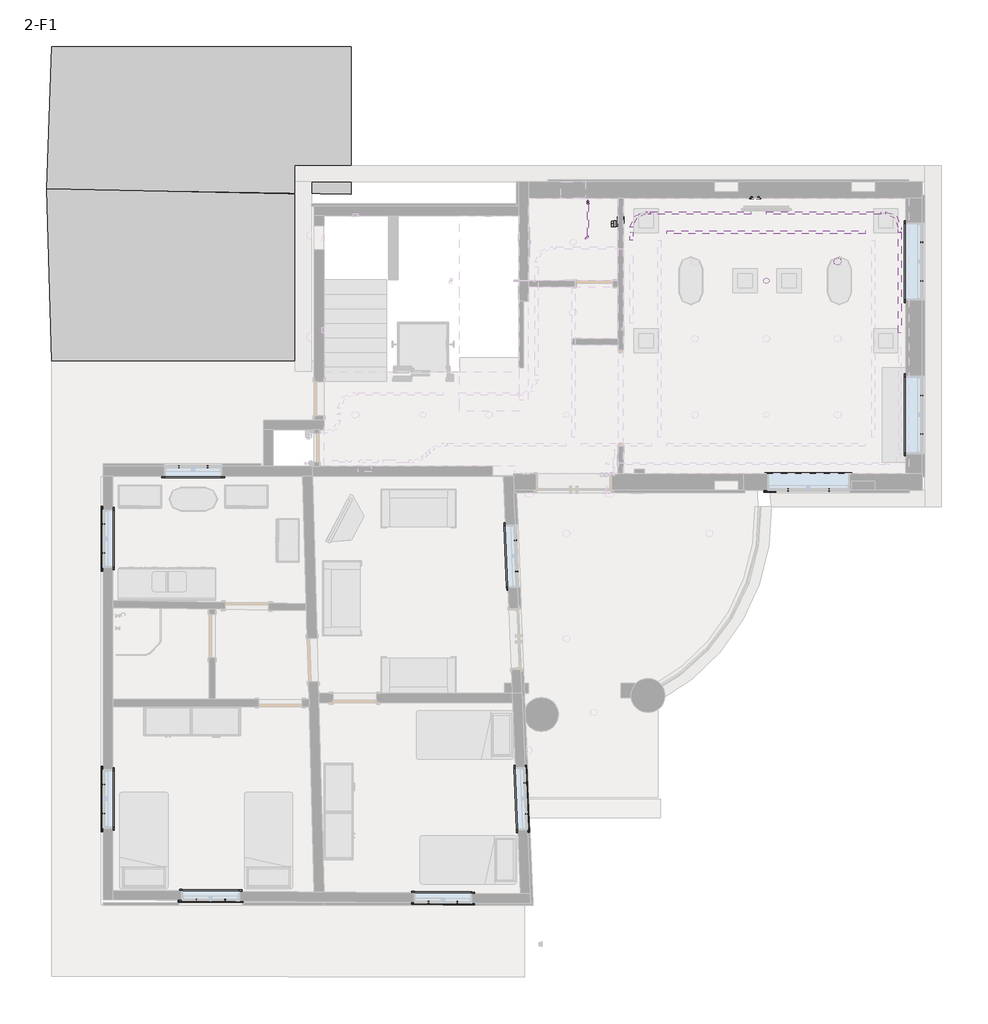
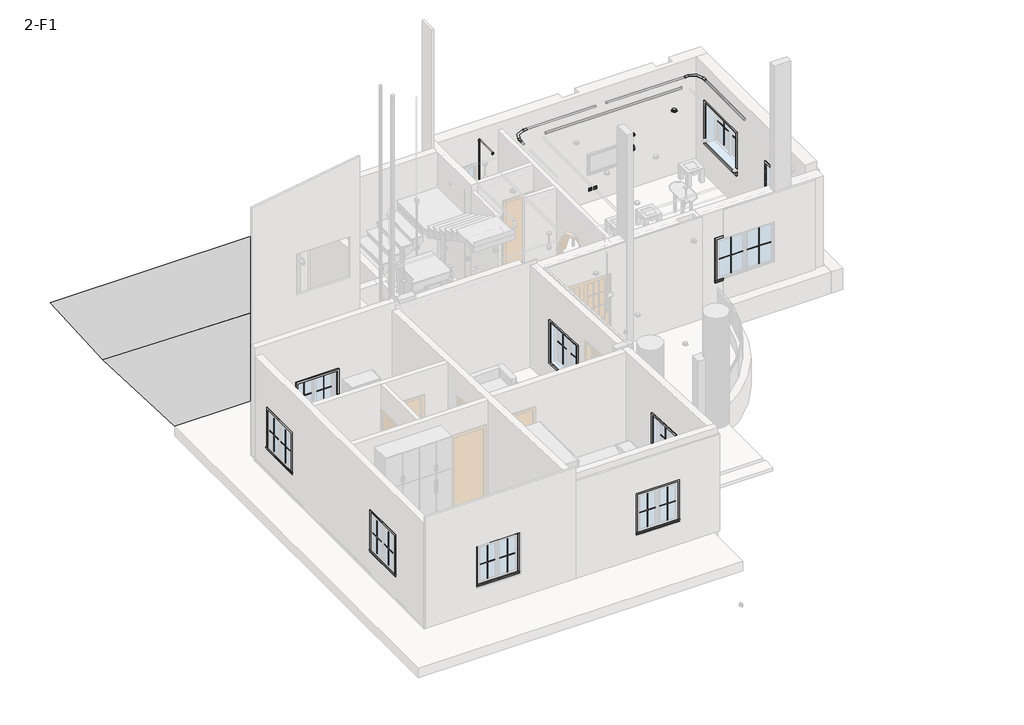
# One storey, part 6 of 6: 48 proxies, 6 pipe fittings, 6 pipe segments, 5 cable carrier segments, 2 cable carrier fittings, 2 electric appliances, 2 light fixtures.
"""IFC4 building model written with IfcOpenShell, lengths in millimetres."""

from ifc_helpers import new_model, si_unit, point, frame, frame_2d, origin, place, context, project, spatial, polyline, circle_curve, trimmed, segment, composite_curve, outline, extrude, triangles, transform, mapped, element, save
from components import m_muntin_pattern_2x2_m_muntin_pattern_2x2_4377dac6, m_muntin_pattern_2x2_m_muntin_pattern_2x2_df03f74c, m_muntin_pattern_2x2_m_muntin_pattern_2x2_cd64e0af, m_muntin_pattern_2x2_m_muntin_pattern_2x2_b10a9b49, m_muntin_pattern_2x2_m_muntin_pattern_2x2_39445eea, m_muntin_pattern_2x2_m_muntin_pattern_2x2_bb1c631c, m_muntin_pattern_2x2_m_muntin_pattern_2x2_200aa1b4, m_muntin_pattern_2x2_m_muntin_pattern_2x2_db84ca2f, m_trim_window_exterior_flat_with_sill_355aabd8, m_trim_window_exterior_flat_with_sill_46af0b0e, m_trim_window_exterior_flat_with_sill_00e127aa, m_trim_window_interior_flat_picture_frame_8805ee71, m_trim_window_interior_flat_picture_frame_af1161c0, m_trim_window_interior_flat_picture_frame_d5faf058, m_trim_window_interior_flat_picture_frame_7d7f0072, wall_mounted_socket_ups_wall_mounted_socket_ups_4524048d, m_conduit_elbow_steel_standard_9fb14d21, wall_mounted_data_socket_wall_mounted_data_socket_ap_474314e8, m_pendant_lamp_art_glass_led_standard_2036dae1, m_recessed_lamp_round_led_e6f06c98, m_bend_pvc_sch_40_dwv_standard_1fb0f857, m_bend_pvc_sch_40_dwv_standard_4f340cfc, m_bend_pvc_sch_40_dwv_standard_b6ce66eb, m_bend_pvc_sch_40_dwv_standard_a3d693df, m_bend_pvc_sch_40_dwv_standard_be9000f5

model = new_model("IFC4")

# Units and contexts
model_context = context("Model", 3, world=origin())
ifc_project = project(units=[si_unit("LENGTHUNIT", "METRE", prefix="MILLI")], contexts=[model_context])

# Site, building, storey
site = spatial("IfcSite", under=ifc_project)
building = spatial("IfcBuilding", under=site)
storey = spatial("IfcBuildingStorey", under=building, Name="2-F1", Elevation=3000.0)

# Proxies
placement = place(None, origin())
element("IfcBuildingElementProxy", 1, Name="Building Element Proxy", at=placement, inside=storey, context=model_context, shape_type="Tessellation", body=[
    triangles([(-4292.1226067, 11999.6303467, 3000.0000229), (-10479.3963959, 11999.6303467, 3000.0000229), (-4292.1226067, 8951.6623215, 3000.0000229), (-10583.7900238, 9055.5530731, 3000.0000229)], [[2, 4, 3], [3, 1, 2]], closed=False),
])
element("IfcBuildingElementProxy", 2, Name="Building Element Proxy", at=placement, inside=storey, context=model_context, shape_type="Tessellation", body=[
    triangles([(-5107.4766174, 8951.6623215, 3000.0000229), (-5107.4766174, 5498.6951797, 3000.0000229), (-10479.3963959, 5498.6951797, 3000.0000229), (-10589.439679, 9057.2721542, 3000.0000229)], [[4, 3, 1], [2, 1, 3]], closed=False),
])
m_muntin_pattern_2x2_m_muntin_pattern_2x2_shape = m_muntin_pattern_2x2_m_muntin_pattern_2x2_4377dac6(model_context)
element("IfcBuildingElementProxy", 3, Name="M_Muntin Pattern_2x2 : M_Muntin Pattern_2x2", ObjectType="M_Muntin Pattern_2x2 : M_Muntin Pattern_2x2", at=placement, inside=storey, context=model_context, shape_type="MappedRepresentation", body=[
    mapped(m_muntin_pattern_2x2_m_muntin_pattern_2x2_shape, transform((-697.2222203, -3209.314887, 3869.85), x_axis=(0.03991052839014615, -0.9992032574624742, 0.0), y_axis=(0.9992032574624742, 0.03991052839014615, 0.0), z_axis=(0.0, 0.0, 1.0))),
])
element("IfcBuildingElementProxy", 4, Name="M_Muntin Pattern_2x2 : M_Muntin Pattern_2x2", ObjectType="M_Muntin Pattern_2x2 : M_Muntin Pattern_2x2", at=placement, inside=storey, context=model_context, shape_type="MappedRepresentation", body=[
    mapped(m_muntin_pattern_2x2_m_muntin_pattern_2x2_shape, transform((-897.2897396, 1799.5919118, 3869.85), x_axis=(0.039910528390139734, -0.9992032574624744, 0.0), y_axis=(0.9992032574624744, 0.039910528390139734, 0.0), z_axis=(0.0, 0.0, 1.0))),
])
m_muntin_pattern_2x2_m_muntin_pattern_2x2_2_shape = m_muntin_pattern_2x2_m_muntin_pattern_2x2_df03f74c(model_context)
element("IfcBuildingElementProxy", 5, Name="M_Muntin Pattern_2x2 : M_Muntin Pattern_2x2", ObjectType="M_Muntin Pattern_2x2 : M_Muntin Pattern_2x2", at=placement, inside=storey, context=model_context, shape_type="MappedRepresentation", body=[
    mapped(m_muntin_pattern_2x2_m_muntin_pattern_2x2_2_shape, transform((-671.4070927, -3855.624534, 3869.85), x_axis=(-0.03991052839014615, 0.9992032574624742, 0.0), y_axis=(-0.9992032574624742, -0.03991052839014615, 0.0), z_axis=(0.0, 0.0, 1.0))),
])
element("IfcBuildingElementProxy", 6, Name="M_Muntin Pattern_2x2 : M_Muntin Pattern_2x2", ObjectType="M_Muntin Pattern_2x2 : M_Muntin Pattern_2x2", at=placement, inside=storey, context=model_context, shape_type="MappedRepresentation", body=[
    mapped(m_muntin_pattern_2x2_m_muntin_pattern_2x2_2_shape, transform((-871.474612, 1153.2822648, 3869.85), x_axis=(-0.039910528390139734, 0.9992032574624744, 0.0), y_axis=(-0.9992032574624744, -0.039910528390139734, 0.0), z_axis=(0.0, 0.0, 1.0))),
])
m_muntin_pattern_2x2_m_muntin_pattern_2x2_3_shape = m_muntin_pattern_2x2_m_muntin_pattern_2x2_cd64e0af(model_context)
element("IfcBuildingElementProxy", 7, Name="M_Muntin Pattern_2x2 : M_Muntin Pattern_2x2", ObjectType="M_Muntin Pattern_2x2 : M_Muntin Pattern_2x2", at=placement, inside=storey, context=model_context, shape_type="MappedRepresentation", body=[
    mapped(m_muntin_pattern_2x2_m_muntin_pattern_2x2_3_shape, transform((-2098.3009712, -5682.1088524, 3869.85), x_axis=(-0.9999589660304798, 0.009059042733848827, 0.0), y_axis=(-0.009059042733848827, -0.9999589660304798, 0.0), z_axis=(0.0, 0.0, 1.0))),
])
element("IfcBuildingElementProxy", 8, Name="M_Muntin Pattern_2x2 : M_Muntin Pattern_2x2", ObjectType="M_Muntin Pattern_2x2 : M_Muntin Pattern_2x2", at=placement, inside=storey, context=model_context, shape_type="MappedRepresentation", body=[
    mapped(m_muntin_pattern_2x2_m_muntin_pattern_2x2_3_shape, transform((-6898.1040081, -5638.6254473, 3869.85), x_axis=(-0.9999589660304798, 0.009059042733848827, 0.0), y_axis=(-0.009059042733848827, -0.9999589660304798, 0.0), z_axis=(0.0, 0.0, 1.0))),
])
element("IfcBuildingElementProxy", 9, Name="M_Muntin Pattern_2x2 : M_Muntin Pattern_2x2", ObjectType="M_Muntin Pattern_2x2 : M_Muntin Pattern_2x2", at=placement, inside=storey, context=model_context, shape_type="MappedRepresentation", body=[
    mapped(m_muntin_pattern_2x2_m_muntin_pattern_2x2_3_shape, transform((-9407.9515921, -3841.1078302, 3869.85), x_axis=(0.0, 1.0, 0.0), y_axis=(-1.0, 0.0, 0.0), z_axis=(0.0, 0.0, 1.0))),
])
element("IfcBuildingElementProxy", 10, Name="M_Muntin Pattern_2x2 : M_Muntin Pattern_2x2", ObjectType="M_Muntin Pattern_2x2 : M_Muntin Pattern_2x2", at=placement, inside=storey, context=model_context, shape_type="MappedRepresentation", body=[
    mapped(m_muntin_pattern_2x2_m_muntin_pattern_2x2_3_shape, transform((-9407.9515921, 1537.0913937, 3869.85), x_axis=(0.0, 1.0, 0.0), y_axis=(-1.0, 0.0, 0.0), z_axis=(0.0, 0.0, 1.0))),
])
element("IfcBuildingElementProxy", 11, Name="M_Muntin Pattern_2x2 : M_Muntin Pattern_2x2", ObjectType="M_Muntin Pattern_2x2 : M_Muntin Pattern_2x2", at=placement, inside=storey, context=model_context, shape_type="MappedRepresentation", body=[
    mapped(m_muntin_pattern_2x2_m_muntin_pattern_2x2_3_shape, transform((-7856.1789451, 3316.9613231, 3869.85), x_axis=(1.0, 0.0, 0.0), y_axis=(0.0, 1.0, 0.0), z_axis=(0.0, 0.0, 1.0))),
])
m_muntin_pattern_2x2_m_muntin_pattern_2x2_4_shape = m_muntin_pattern_2x2_m_muntin_pattern_2x2_b10a9b49(model_context)
element("IfcBuildingElementProxy", 12, Name="M_Muntin Pattern_2x2 : M_Muntin Pattern_2x2", ObjectType="M_Muntin Pattern_2x2 : M_Muntin Pattern_2x2", at=placement, inside=storey, context=model_context, shape_type="MappedRepresentation", body=[
    mapped(m_muntin_pattern_2x2_m_muntin_pattern_2x2_4_shape, transform((-2695.1014811, -5676.7021892, 3869.85), x_axis=(0.9999589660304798, -0.009059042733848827, 0.0), y_axis=(0.009059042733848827, 0.9999589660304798, 0.0), z_axis=(0.0, 0.0, 1.0))),
])
element("IfcBuildingElementProxy", 13, Name="M_Muntin Pattern_2x2 : M_Muntin Pattern_2x2", ObjectType="M_Muntin Pattern_2x2 : M_Muntin Pattern_2x2", at=placement, inside=storey, context=model_context, shape_type="MappedRepresentation", body=[
    mapped(m_muntin_pattern_2x2_m_muntin_pattern_2x2_4_shape, transform((-7494.904518, -5633.2187841, 3869.85), x_axis=(0.9999589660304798, -0.009059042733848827, 0.0), y_axis=(0.009059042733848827, 0.9999589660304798, 0.0), z_axis=(0.0, 0.0, 1.0))),
])
element("IfcBuildingElementProxy", 14, Name="M_Muntin Pattern_2x2 : M_Muntin Pattern_2x2", ObjectType="M_Muntin Pattern_2x2 : M_Muntin Pattern_2x2", at=placement, inside=storey, context=model_context, shape_type="MappedRepresentation", body=[
    mapped(m_muntin_pattern_2x2_m_muntin_pattern_2x2_4_shape, transform((-9407.9515921, -3244.2828302, 3869.85), x_axis=(0.0, -1.0, 0.0), y_axis=(1.0, 0.0, 0.0), z_axis=(0.0, 0.0, 1.0))),
])
element("IfcBuildingElementProxy", 15, Name="M_Muntin Pattern_2x2 : M_Muntin Pattern_2x2", ObjectType="M_Muntin Pattern_2x2 : M_Muntin Pattern_2x2", at=placement, inside=storey, context=model_context, shape_type="MappedRepresentation", body=[
    mapped(m_muntin_pattern_2x2_m_muntin_pattern_2x2_4_shape, transform((-9407.9515921, 2133.9163937, 3869.85), x_axis=(0.0, -1.0, 0.0), y_axis=(1.0, 0.0, 0.0), z_axis=(0.0, 0.0, 1.0))),
])
element("IfcBuildingElementProxy", 16, Name="M_Muntin Pattern_2x2 : M_Muntin Pattern_2x2", ObjectType="M_Muntin Pattern_2x2 : M_Muntin Pattern_2x2", at=placement, inside=storey, context=model_context, shape_type="MappedRepresentation", body=[
    mapped(m_muntin_pattern_2x2_m_muntin_pattern_2x2_4_shape, transform((-7259.3539451, 3316.9613231, 3869.85), x_axis=(-1.0, 0.0, 0.0), y_axis=(0.0, -1.0, 0.0), z_axis=(0.0, 0.0, 1.0))),
])
m_muntin_pattern_2x2_m_muntin_pattern_2x2_5_shape = m_muntin_pattern_2x2_m_muntin_pattern_2x2_39445eea(model_context)
element("IfcBuildingElementProxy", 17, Name="M_Muntin Pattern_2x2 : M_Muntin Pattern_2x2", ObjectType="M_Muntin Pattern_2x2 : M_Muntin Pattern_2x2", at=placement, inside=storey, context=model_context, shape_type="MappedRepresentation", body=[
    mapped(m_muntin_pattern_2x2_m_muntin_pattern_2x2_5_shape, transform((7502.9984079, 7957.1293012, 4179.85), x_axis=(0.0, -1.0, 0.0), y_axis=(1.0, 0.0, 0.0), z_axis=(0.0, 0.0, 1.0))),
])
element("IfcBuildingElementProxy", 18, Name="M_Muntin Pattern_2x2 : M_Muntin Pattern_2x2", ObjectType="M_Muntin Pattern_2x2 : M_Muntin Pattern_2x2", at=placement, inside=storey, context=model_context, shape_type="MappedRepresentation", body=[
    mapped(m_muntin_pattern_2x2_m_muntin_pattern_2x2_5_shape, transform((7502.9984079, 4788.9654852, 4179.85), x_axis=(0.0, -1.0, 0.0), y_axis=(1.0, 0.0, 0.0), z_axis=(0.0, 0.0, 1.0))),
])
m_muntin_pattern_2x2_m_muntin_pattern_2x2_6_shape = m_muntin_pattern_2x2_m_muntin_pattern_2x2_bb1c631c(model_context)
element("IfcBuildingElementProxy", 19, Name="M_Muntin Pattern_2x2 : M_Muntin Pattern_2x2", ObjectType="M_Muntin Pattern_2x2 : M_Muntin Pattern_2x2", at=placement, inside=storey, context=model_context, shape_type="MappedRepresentation", body=[
    mapped(m_muntin_pattern_2x2_m_muntin_pattern_2x2_6_shape, transform((7502.9984079, 7160.3043012, 4179.85), x_axis=(0.0, 1.0, 0.0), y_axis=(-1.0, 0.0, 0.0), z_axis=(0.0, 0.0, 1.0))),
])
element("IfcBuildingElementProxy", 20, Name="M_Muntin Pattern_2x2 : M_Muntin Pattern_2x2", ObjectType="M_Muntin Pattern_2x2 : M_Muntin Pattern_2x2", at=placement, inside=storey, context=model_context, shape_type="MappedRepresentation", body=[
    mapped(m_muntin_pattern_2x2_m_muntin_pattern_2x2_6_shape, transform((7502.9984079, 3992.1404852, 4179.85), x_axis=(0.0, 1.0, 0.0), y_axis=(-1.0, 0.0, 0.0), z_axis=(0.0, 0.0, 1.0))),
])
m_muntin_pattern_2x2_m_muntin_pattern_2x2_7_shape = m_muntin_pattern_2x2_m_muntin_pattern_2x2_200aa1b4(model_context)
element("IfcBuildingElementProxy", 21, Name="M_Muntin Pattern_2x2 : M_Muntin Pattern_2x2", ObjectType="M_Muntin Pattern_2x2 : M_Muntin Pattern_2x2", at=placement, inside=storey, context=model_context, shape_type="MappedRepresentation", body=[
    mapped(m_muntin_pattern_2x2_m_muntin_pattern_2x2_7_shape, transform((5581.5005373, 2840.1736583, 4179.85), x_axis=(-1.0, 0.0, 0.0), y_axis=(0.0, -1.0, 0.0), z_axis=(0.0, 0.0, 1.0))),
])
m_muntin_pattern_2x2_m_muntin_pattern_2x2_8_shape = m_muntin_pattern_2x2_m_muntin_pattern_2x2_db84ca2f(model_context)
element("IfcBuildingElementProxy", 22, Name="M_Muntin Pattern_2x2 : M_Muntin Pattern_2x2", ObjectType="M_Muntin Pattern_2x2 : M_Muntin Pattern_2x2", at=placement, inside=storey, context=model_context, shape_type="MappedRepresentation", body=[
    mapped(m_muntin_pattern_2x2_m_muntin_pattern_2x2_8_shape, transform((4734.6755373, 2840.1736583, 4179.85), x_axis=(1.0, 0.0, 0.0), y_axis=(0.0, 1.0, 0.0), z_axis=(0.0, 0.0, 1.0))),
])
element("IfcBuildingElementProxy", 23, Name="M_Trim-Window-Exterior-Flat : with Sill", ObjectType="M_Trim-Window-Exterior-Flat : with Sill", at=placement, inside=storey, context=model_context, shape_type="SweptSolid", body=[
    extrude(outline(polyline([(5455.0, 4248.0880373), (4110.0, 4248.0880373), (4110.0, 4308.0880373), (5395.0, 4308.0880373), (5395.0, 6008.0880373), (4110.0, 6008.0880373), (4110.0, 6068.0880373), (5455.0, 6068.0880373), (5455.0, 4248.0880373)])), frame((0.0, 2811.5986583, 0.0), z_axis=(0.0, 1.0, 0.0), x_axis=(0.0, 0.0, 1.0)), (0.0, 0.0, 1.0), 19.05),
    extrude(outline(polyline([(2792.5486583, 4080.0), (2792.5486583, 4107.5419355), (2811.5986583, 4110.0), (2830.6486583, 4110.0), (2830.6486583, 4089.5676291), (2811.5986583, 4089.5676291), (2811.5986583, 4080.0), (2792.5486583, 4080.0)])), frame((4235.3880373, 0.0, 0.0), z_axis=(1.0, 0.0, 0.0), x_axis=(0.0, 1.0, 0.0)), (0.0, 0.0, 1.0), 1845.4),
    extrude(outline(polyline([(6068.0880373, 2811.5986583), (4248.0880373, 2811.5986583), (4248.0880373, 2830.6486583), (6068.0880373, 2830.6486583), (6068.0880373, 2811.5986583)])), frame((0.0, 0.0, 4029.5676291), z_axis=(0.0, 0.0, 1.0), x_axis=(1.0, 0.0, 0.0)), (0.0, 0.0, 1.0), 60.0),
])
m_trim_window_exterior_flat_with_sill_shape = m_trim_window_exterior_flat_with_sill_355aabd8(model_context)
element("IfcBuildingElementProxy", 24, Name="M_Trim-Window-Exterior-Flat : with Sill", ObjectType="M_Trim-Window-Exterior-Flat : with Sill", at=placement, inside=storey, context=model_context, shape_type="MappedRepresentation", body=[
    mapped(m_trim_window_exterior_flat_with_sill_shape, transform((-674.7972455, -3532.0895627, 5100.0), x_axis=(-0.03991052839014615, 0.9992032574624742, 0.0), y_axis=(0.0, 0.0, 1.0), z_axis=(0.9992032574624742, 0.03991052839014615, 0.0))),
])
element("IfcBuildingElementProxy", 25, Name="M_Trim-Window-Exterior-Flat : with Sill", ObjectType="M_Trim-Window-Exterior-Flat : with Sill", at=placement, inside=storey, context=model_context, shape_type="MappedRepresentation", body=[
    mapped(m_trim_window_exterior_flat_with_sill_shape, transform((-874.8647648, 1476.8172361, 5100.0), x_axis=(-0.039910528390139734, 0.9992032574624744, 0.0), y_axis=(0.0, 0.0, 1.0), z_axis=(0.9992032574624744, 0.039910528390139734, 0.0))),
])
m_trim_window_exterior_flat_with_sill_2_shape = m_trim_window_exterior_flat_with_sill_46af0b0e(model_context)
element("IfcBuildingElementProxy", 26, Name="M_Trim-Window-Exterior-Flat : with Sill", ObjectType="M_Trim-Window-Exterior-Flat : with Sill", at=placement, inside=storey, context=model_context, shape_type="MappedRepresentation", body=[
    mapped(m_trim_window_exterior_flat_with_sill_2_shape, transform((-2396.7875135, -5688.9301299, 5000.0), x_axis=(0.9999589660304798, -0.009059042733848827, 0.0), y_axis=(0.0, 0.0, 1.0), z_axis=(-0.009059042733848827, -0.9999589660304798, 0.0))),
])
element("IfcBuildingElementProxy", 27, Name="M_Trim-Window-Exterior-Flat : with Sill", ObjectType="M_Trim-Window-Exterior-Flat : with Sill", at=placement, inside=storey, context=model_context, shape_type="MappedRepresentation", body=[
    mapped(m_trim_window_exterior_flat_with_sill_2_shape, transform((-7196.5905504, -5645.4467248, 5000.0), x_axis=(0.9999589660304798, -0.009059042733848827, 0.0), y_axis=(0.0, 0.0, 1.0), z_axis=(-0.009059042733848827, -0.9999589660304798, 0.0))),
])
element("IfcBuildingElementProxy", 28, Name="M_Trim-Window-Exterior-Flat : with Sill", ObjectType="M_Trim-Window-Exterior-Flat : with Sill", at=placement, inside=storey, context=model_context, shape_type="MappedRepresentation", body=[
    mapped(m_trim_window_exterior_flat_with_sill_2_shape, transform((-9417.4765921, -3542.6953302, 5000.0), x_axis=(0.0, -1.0, 0.0), y_axis=(0.0, 0.0, 1.0), z_axis=(-1.0, 0.0, 0.0))),
])
element("IfcBuildingElementProxy", 29, Name="M_Trim-Window-Exterior-Flat : with Sill", ObjectType="M_Trim-Window-Exterior-Flat : with Sill", at=placement, inside=storey, context=model_context, shape_type="MappedRepresentation", body=[
    mapped(m_trim_window_exterior_flat_with_sill_2_shape, transform((-9417.4765921, 1835.5038937, 5000.0), x_axis=(0.0, -1.0, 0.0), y_axis=(0.0, 0.0, 1.0), z_axis=(-1.0, 0.0, 0.0))),
])
element("IfcBuildingElementProxy", 30, Name="M_Trim-Window-Exterior-Flat : with Sill", ObjectType="M_Trim-Window-Exterior-Flat : with Sill", at=placement, inside=storey, context=model_context, shape_type="MappedRepresentation", body=[
    mapped(m_trim_window_exterior_flat_with_sill_2_shape, transform((-7557.7664451, 3326.4863231, 5000.0), x_axis=(-1.0, 0.0, 0.0), y_axis=(0.0, 0.0, 1.0), z_axis=(0.0, 1.0, 0.0))),
])
m_trim_window_exterior_flat_with_sill_3_shape = m_trim_window_exterior_flat_with_sill_00e127aa(model_context)
element("IfcBuildingElementProxy", 31, Name="M_Trim-Window-Exterior-Flat : with Sill", ObjectType="M_Trim-Window-Exterior-Flat : with Sill", at=placement, inside=storey, context=model_context, shape_type="MappedRepresentation", body=[
    mapped(m_trim_window_exterior_flat_with_sill_3_shape, transform((7512.5234079, 7558.7168012, 5400.0), x_axis=(0.0, 1.0, 0.0), y_axis=(0.0, 0.0, 1.0), z_axis=(1.0, 0.0, 0.0))),
])
element("IfcBuildingElementProxy", 32, Name="M_Trim-Window-Exterior-Flat : with Sill", ObjectType="M_Trim-Window-Exterior-Flat : with Sill", at=placement, inside=storey, context=model_context, shape_type="MappedRepresentation", body=[
    mapped(m_trim_window_exterior_flat_with_sill_3_shape, transform((7512.5234079, 4390.5529852, 5400.0), x_axis=(0.0, 1.0, 0.0), y_axis=(0.0, 0.0, 1.0), z_axis=(1.0, 0.0, 0.0))),
])
m_trim_window_interior_flat_picture_frame_shape = m_trim_window_interior_flat_picture_frame_8805ee71(model_context)
element("IfcBuildingElementProxy", 33, Name="M_Trim-Window-Interior-Flat : Picture Frame", ObjectType="M_Trim-Window-Interior-Flat : Picture Frame", at=placement, inside=storey, context=model_context, shape_type="MappedRepresentation", body=[
    mapped(m_trim_window_interior_flat_picture_frame_shape, transform((-874.637897, -3540.0716684, 5100.0), x_axis=(0.03991052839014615, -0.9992032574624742, 0.0), y_axis=(0.0, 0.0, 1.0), z_axis=(-0.9992032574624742, -0.03991052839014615, 0.0))),
])
element("IfcBuildingElementProxy", 34, Name="M_Trim-Window-Interior-Flat : Picture Frame", ObjectType="M_Trim-Window-Interior-Flat : Picture Frame", at=placement, inside=storey, context=model_context, shape_type="MappedRepresentation", body=[
    mapped(m_trim_window_interior_flat_picture_frame_shape, transform((-1074.7054163, 1468.8351304, 5100.0), x_axis=(0.039910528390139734, -0.9992032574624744, 0.0), y_axis=(0.0, 0.0, 1.0), z_axis=(-0.9992032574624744, -0.039910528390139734, 0.0))),
])
m_trim_window_interior_flat_picture_frame_2_shape = m_trim_window_interior_flat_picture_frame_af1161c0(model_context)
element("IfcBuildingElementProxy", 35, Name="M_Trim-Window-Interior-Flat : Picture Frame", ObjectType="M_Trim-Window-Interior-Flat : Picture Frame", at=placement, inside=storey, context=model_context, shape_type="MappedRepresentation", body=[
    mapped(m_trim_window_interior_flat_picture_frame_2_shape, transform((-2394.9757049, -5488.9383367, 5000.0), x_axis=(-0.9999589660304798, 0.009059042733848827, 0.0), y_axis=(0.0, 0.0, 1.0), z_axis=(0.009059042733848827, 0.9999589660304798, 0.0))),
])
element("IfcBuildingElementProxy", 36, Name="M_Trim-Window-Interior-Flat : Picture Frame", ObjectType="M_Trim-Window-Interior-Flat : Picture Frame", at=placement, inside=storey, context=model_context, shape_type="MappedRepresentation", body=[
    mapped(m_trim_window_interior_flat_picture_frame_2_shape, transform((-7194.7787419, -5445.4549316, 5000.0), x_axis=(-0.9999589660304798, 0.009059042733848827, 0.0), y_axis=(0.0, 0.0, 1.0), z_axis=(0.009059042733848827, 0.9999589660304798, 0.0))),
])
element("IfcBuildingElementProxy", 37, Name="M_Trim-Window-Interior-Flat : Picture Frame", ObjectType="M_Trim-Window-Interior-Flat : Picture Frame", at=placement, inside=storey, context=model_context, shape_type="MappedRepresentation", body=[
    mapped(m_trim_window_interior_flat_picture_frame_2_shape, transform((-9217.4765921, -3542.6953302, 5000.0), x_axis=(0.0, 1.0, 0.0), y_axis=(0.0, 0.0, 1.0), z_axis=(1.0, 0.0, 0.0))),
])
element("IfcBuildingElementProxy", 38, Name="M_Trim-Window-Interior-Flat : Picture Frame", ObjectType="M_Trim-Window-Interior-Flat : Picture Frame", at=placement, inside=storey, context=model_context, shape_type="MappedRepresentation", body=[
    mapped(m_trim_window_interior_flat_picture_frame_2_shape, transform((-9217.4765921, 1835.5038937, 5000.0), x_axis=(0.0, 1.0, 0.0), y_axis=(0.0, 0.0, 1.0), z_axis=(1.0, 0.0, 0.0))),
])
element("IfcBuildingElementProxy", 39, Name="M_Trim-Window-Interior-Flat : Picture Frame", ObjectType="M_Trim-Window-Interior-Flat : Picture Frame", at=placement, inside=storey, context=model_context, shape_type="MappedRepresentation", body=[
    mapped(m_trim_window_interior_flat_picture_frame_2_shape, transform((-7557.7664451, 3126.4863231, 5000.0), x_axis=(1.0, 0.0, 0.0), y_axis=(0.0, 0.0, 1.0), z_axis=(0.0, -1.0, 0.0))),
])
m_trim_window_interior_flat_picture_frame_3_shape = m_trim_window_interior_flat_picture_frame_d5faf058(model_context)
element("IfcBuildingElementProxy", 40, Name="M_Trim-Window-Interior-Flat : Picture Frame", ObjectType="M_Trim-Window-Interior-Flat : Picture Frame", at=placement, inside=storey, context=model_context, shape_type="MappedRepresentation", body=[
    mapped(m_trim_window_interior_flat_picture_frame_3_shape, transform((7172.5234079, 7558.7168012, 5400.0), x_axis=(0.0, -1.0, 0.0), y_axis=(0.0, 0.0, 1.0), z_axis=(-1.0, 0.0, 0.0))),
])
element("IfcBuildingElementProxy", 41, Name="M_Trim-Window-Interior-Flat : Picture Frame", ObjectType="M_Trim-Window-Interior-Flat : Picture Frame", at=placement, inside=storey, context=model_context, shape_type="MappedRepresentation", body=[
    mapped(m_trim_window_interior_flat_picture_frame_3_shape, transform((7172.5234079, 4390.5529852, 5400.0), x_axis=(0.0, -1.0, 0.0), y_axis=(0.0, 0.0, 1.0), z_axis=(-1.0, 0.0, 0.0))),
])
m_trim_window_interior_flat_picture_frame_4_shape = m_trim_window_interior_flat_picture_frame_7d7f0072(model_context)
element("IfcBuildingElementProxy", 42, Name="M_Trim-Window-Interior-Flat : Picture Frame", ObjectType="M_Trim-Window-Interior-Flat : Picture Frame", at=placement, inside=storey, context=model_context, shape_type="MappedRepresentation", body=[
    mapped(m_trim_window_interior_flat_picture_frame_4_shape, transform((5158.0880373, 3170.6486583, 5395.0), x_axis=(-1.0, 0.0, 0.0), y_axis=(0.0, 0.0, 1.0), z_axis=(0.0, 1.0, 0.0))),
])
wall_mounted_socket_ups_wall_mounted_socket_ups_shape = wall_mounted_socket_ups_wall_mounted_socket_ups_4524048d(model_context)
element("IfcBuildingElementProxy", 43, Name="WALL MOUNTED SOCKET : WALL MOUNTED SOCKET", ObjectType="WALL MOUNTED SOCKET : WALL MOUNTED SOCKET", at=placement, inside=storey, context=model_context, shape_type="MappedRepresentation", body=[
    mapped(wall_mounted_socket_ups_wall_mounted_socket_ups_shape, transform((7235.5234079, 6021.3848932, 3450.0), x_axis=(0.0, -1.0, 0.0), y_axis=(0.0, 0.0, 1.0), z_axis=(-1.0, 0.0, 0.0))),
])
element("IfcBuildingElementProxy", 44, Name="WALL MOUNTED SOCKET : WALL MOUNTED SOCKET", ObjectType="WALL MOUNTED SOCKET : WALL MOUNTED SOCKET", at=placement, inside=storey, context=model_context, shape_type="MappedRepresentation", body=[
    mapped(wall_mounted_socket_ups_wall_mounted_socket_ups_shape, transform((3980.6274899, 8861.6620874, 3450.0), x_axis=(1.0, 0.0, 0.0), y_axis=(0.0, 0.0, 1.0), z_axis=(0.0, -1.0, 0.0))),
])
element("IfcBuildingElementProxy", 45, Name="WALL MOUNTED SOCKET UPS : WALL MOUNTED SOCKET UPS", ObjectType="WALL MOUNTED SOCKET UPS : WALL MOUNTED SOCKET UPS", at=placement, inside=storey, context=model_context, shape_type="MappedRepresentation", body=[
    mapped(wall_mounted_socket_ups_wall_mounted_socket_ups_shape, transform((1335.5234079, 8401.6620874, 3450.0), x_axis=(0.0, 1.0, 0.0), y_axis=(0.0, 0.0, 1.0), z_axis=(1.0, 0.0, 0.0))),
])
element("IfcBuildingElementProxy", 46, Name="WALL MOUNTED SOCKET UPS : WALL MOUNTED SOCKET UPS", ObjectType="WALL MOUNTED SOCKET UPS : WALL MOUNTED SOCKET UPS", at=placement, inside=storey, context=model_context, shape_type="MappedRepresentation", body=[
    mapped(wall_mounted_socket_ups_wall_mounted_socket_ups_shape, transform((3982.8774899, 8861.6620874, 4200.0), x_axis=(1.0, 0.0, 0.0), y_axis=(0.0, 0.0, 1.0), z_axis=(0.0, -1.0, 0.0))),
])
element("IfcBuildingElementProxy", 47, Name="WALL MOUNTED SOCKET UPS : WALL MOUNTED SOCKET UPS", ObjectType="WALL MOUNTED SOCKET UPS : WALL MOUNTED SOCKET UPS", at=placement, inside=storey, context=model_context, shape_type="MappedRepresentation", body=[
    mapped(wall_mounted_socket_ups_wall_mounted_socket_ups_shape, transform((7235.5234079, 8614.4120874, 3450.0), x_axis=(0.0, -1.0, 0.0), y_axis=(0.0, 0.0, 1.0), z_axis=(-1.0, 0.0, 0.0))),
])
element("IfcBuildingElementProxy", 48, Name="WALL MOUNTED SOCKET UPS : WALL MOUNTED SOCKET UPS", ObjectType="WALL MOUNTED SOCKET UPS : WALL MOUNTED SOCKET UPS", at=placement, inside=storey, context=model_context, shape_type="MappedRepresentation", body=[
    mapped(wall_mounted_socket_ups_wall_mounted_socket_ups_shape, transform((7235.5234079, 6235.3848932, 3450.0), x_axis=(0.0, -1.0, 0.0), y_axis=(0.0, 0.0, 1.0), z_axis=(-1.0, 0.0, 0.0))),
])

# Cable carrier fittings
m_conduit_elbow_steel_standard_shape = m_conduit_elbow_steel_standard_9fb14d21(model_context)
element("IfcCableCarrierFitting", 49, ObjectType="M_Conduit Elbow - Steel : Standard", at=placement, inside=storey, context=model_context, shape_type="MappedRepresentation", body=[
    mapped(m_conduit_elbow_steel_standard_shape, transform((7045.0916116, 8560.3, 6269.835), x_axis=(0.0, 1.0, 0.0), y_axis=(-1.0, 0.0, 0.0), z_axis=(0.0, 0.0, 1.0))),
])
element("IfcCableCarrierFitting", 50, ObjectType="M_Conduit Elbow - Steel : Standard", at=placement, inside=storey, context=model_context, shape_type="MappedRepresentation", body=[
    mapped(m_conduit_elbow_steel_standard_shape, transform((1496.7084668, 8560.3, 6269.835), x_axis=(-1.0, 0.0, 0.0), y_axis=(0.0, -1.0, 0.0), z_axis=(0.0, 0.0, 1.0))),
])

# Cable carrier segments
element("IfcCableCarrierSegment", 51, ObjectType="Low Current", at=placement, inside=storey, context=model_context, shape_type="SweptSolid", body=[
    extrude(outline(composite_curve([segment(trimmed(circle_curve(frame_2d((6269.835, 7045.0916116)), 27.9), [point((6269.835, 7017.1916116))], [point((6241.935, 7045.0916116))], False, "CARTESIAN"), True, "CONTINUOUS"), segment(trimmed(circle_curve(frame_2d((6269.835, 7045.0916116)), 27.9), [point((6241.935, 7045.0916116))], [point((6269.835, 7072.9916116))], False, "CARTESIAN"), True, "CONTINUOUS"), segment(trimmed(circle_curve(frame_2d((6269.835, 7045.0916116)), 27.9), [point((6269.835, 7072.9916116))], [point((6297.735, 7045.0916116))], False, "CARTESIAN"), True, "CONTINUOUS"), segment(trimmed(circle_curve(frame_2d((6269.835, 7045.0916116)), 27.9), [point((6297.735, 7045.0916116))], [point((6269.835, 7017.1916116))], False, "CARTESIAN"), True, "CONTINUOUS")], self_intersect=False)), frame((0.0, 6090.3629039, 0.0), z_axis=(0.0, 1.0, 0.0), x_axis=(0.0, 0.0, 1.0)), (0.0, 0.0, 1.0), 2076.2370961),
])
element("IfcCableCarrierSegment", 52, ObjectType="Low Current", at=placement, inside=storey, context=model_context, shape_type="SweptSolid", body=[
    extrude(outline(composite_curve([segment(trimmed(circle_curve(frame_2d((8560.3, 6269.835)), 27.9), [point((8532.4, 6269.835))], [point((8560.3, 6297.735))], False, "CARTESIAN"), True, "CONTINUOUS"), segment(trimmed(circle_curve(frame_2d((8560.3, 6269.835)), 27.9), [point((8560.3, 6297.735))], [point((8588.2, 6269.835))], False, "CARTESIAN"), True, "CONTINUOUS"), segment(trimmed(circle_curve(frame_2d((8560.3, 6269.835)), 27.9), [point((8588.2, 6269.835))], [point((8560.3, 6241.935))], False, "CARTESIAN"), True, "CONTINUOUS"), segment(trimmed(circle_curve(frame_2d((8560.3, 6269.835)), 27.9), [point((8560.3, 6241.935))], [point((8532.4, 6269.835))], False, "CARTESIAN"), True, "CONTINUOUS")], self_intersect=False)), frame((4289.166915, 0.0, 0.0), z_axis=(1.0, 0.0, 0.0), x_axis=(0.0, 1.0, 0.0)), (0.0, 0.0, 1.0), 2362.2246966),
])
element("IfcCableCarrierSegment", 53, ObjectType="Low Current", at=placement, inside=storey, context=model_context, shape_type="SweptSolid", body=[
    extrude(outline(composite_curve([segment(trimmed(circle_curve(frame_2d((8560.3, 6269.835)), 27.9), [point((8532.4, 6269.835))], [point((8560.3, 6297.735))], False, "CARTESIAN"), True, "CONTINUOUS"), segment(trimmed(circle_curve(frame_2d((8560.3, 6269.835)), 27.9), [point((8560.3, 6297.735))], [point((8588.2, 6269.835))], False, "CARTESIAN"), True, "CONTINUOUS"), segment(trimmed(circle_curve(frame_2d((8560.3, 6269.835)), 27.9), [point((8588.2, 6269.835))], [point((8560.3, 6241.935))], False, "CARTESIAN"), True, "CONTINUOUS"), segment(trimmed(circle_curve(frame_2d((8560.3, 6269.835)), 27.9), [point((8560.3, 6241.935))], [point((8532.4, 6269.835))], False, "CARTESIAN"), True, "CONTINUOUS")], self_intersect=False)), frame((1890.4084668, 0.0, 0.0), z_axis=(1.0, 0.0, 0.0), x_axis=(0.0, 1.0, 0.0)), (0.0, 0.0, 1.0), 2080.7584482),
])
element("IfcCableCarrierSegment", 54, ObjectType="Low Current", at=placement, inside=storey, context=model_context, shape_type="SweptSolid", body=[
    extrude(outline(composite_curve([segment(trimmed(circle_curve(frame_2d((6269.835, 1496.7084668)), 27.9), [point((6269.835, 1524.6084668))], [point((6297.735, 1496.7084668))], False, "CARTESIAN"), True, "CONTINUOUS"), segment(trimmed(circle_curve(frame_2d((6269.835, 1496.7084668)), 27.9), [point((6297.735, 1496.7084668))], [point((6269.835, 1468.8084668))], False, "CARTESIAN"), True, "CONTINUOUS"), segment(trimmed(circle_curve(frame_2d((6269.835, 1496.7084668)), 27.9), [point((6269.835, 1468.8084668))], [point((6241.935, 1496.7084668))], False, "CARTESIAN"), True, "CONTINUOUS"), segment(trimmed(circle_curve(frame_2d((6269.835, 1496.7084668)), 27.9), [point((6241.935, 1496.7084668))], [point((6269.835, 1524.6084668))], False, "CARTESIAN"), True, "CONTINUOUS")], self_intersect=False)), frame((0.0, 7999.3, 0.0), z_axis=(0.0, 1.0, 0.0), x_axis=(0.0, 0.0, 1.0)), (0.0, 0.0, 1.0), 167.3),
])
element("IfcCableCarrierSegment", 55, ObjectType="Power", at=placement, inside=storey, context=model_context, shape_type="SweptSolid", body=[
    extrude(outline(composite_curve([segment(trimmed(circle_curve(frame_2d((8161.6620874, 6272.1)), 30.165), [point((8131.4970874, 6272.1))], [point((8161.6620874, 6302.265))], False, "CARTESIAN"), True, "CONTINUOUS"), segment(trimmed(circle_curve(frame_2d((8161.6620874, 6272.1)), 30.165), [point((8161.6620874, 6302.265))], [point((8191.8270874, 6272.1))], False, "CARTESIAN"), True, "CONTINUOUS"), segment(trimmed(circle_curve(frame_2d((8161.6620874, 6272.1)), 30.165), [point((8191.8270874, 6272.1))], [point((8161.6620874, 6241.935))], False, "CARTESIAN"), True, "CONTINUOUS"), segment(trimmed(circle_curve(frame_2d((8161.6620874, 6272.1)), 30.165), [point((8161.6620874, 6241.935))], [point((8131.4970874, 6272.1))], False, "CARTESIAN"), True, "CONTINUOUS")], self_intersect=False)), frame((2234.5234079, 0.0, 0.0), z_axis=(1.0, 0.0, 0.0), x_axis=(0.0, 1.0, 0.0)), (0.0, 0.0, 1.0), 4102.0),
])

# Electric appliances
wall_mounted_data_socket_wall_mounted_data_socket_ap_shape = wall_mounted_data_socket_wall_mounted_data_socket_ap_474314e8(model_context)
element("IfcElectricAppliance", 56, ObjectType="WALL MOUNTED DATA SOCKET : WALL MOUNTED DATA SOCKET AP", at=placement, inside=storey, context=model_context, shape_type="MappedRepresentation", body=[
    mapped(wall_mounted_data_socket_wall_mounted_data_socket_ap_shape, transform((4127.8774899, 8861.6620874, 4200.0), x_axis=(1.0, 0.0, 0.0), y_axis=(0.0, 0.0, 1.0), z_axis=(0.0, -1.0, 0.0))),
])
element("IfcElectricAppliance", 57, ObjectType="WALL MOUNTED DATA SOCKET : WALL MOUNTED DATA SOCKET AP", at=placement, inside=storey, context=model_context, shape_type="MappedRepresentation", body=[
    mapped(wall_mounted_data_socket_wall_mounted_data_socket_ap_shape, transform((4127.8774899, 8861.6620874, 3450.0), x_axis=(1.0, 0.0, 0.0), y_axis=(0.0, 0.0, 1.0), z_axis=(0.0, -1.0, 0.0))),
])

# Light fixtures
m_pendant_lamp_art_glass_led_standard_shape = m_pendant_lamp_art_glass_led_standard_2036dae1(model_context)
element("IfcLightFixture", 58, ObjectType="M_Pendant Lamp - Art Glass - LED : Standard", at=placement, inside=storey, context=model_context, shape_type="MappedRepresentation", body=[
    mapped(m_pendant_lamp_art_glass_led_standard_shape, transform((4286.4363488, 7161.6620874, 6123.0), x_axis=(1.0, 0.0, 0.0), y_axis=(0.0, -1.0, 0.0), z_axis=(0.0, 0.0, -1.0))),
])
m_recessed_lamp_round_led_shape = m_recessed_lamp_round_led_e6f06c98(model_context)
element("IfcLightFixture", 59, ObjectType="M_Recessed Lamp - Round - LED : 100mm Trimless Downlight", at=placement, inside=storey, context=model_context, shape_type="MappedRepresentation", body=[
    mapped(m_recessed_lamp_round_led_shape, transform((5760.5234079, 7558.7168012, 6123.0), x_axis=(1.0, 0.0, 0.0), y_axis=(0.0, -1.0, 0.0), z_axis=(0.0, 0.0, -1.0))),
])

# Pipe fittings
m_bend_pvc_sch_40_dwv_standard_shape = m_bend_pvc_sch_40_dwv_standard_1fb0f857(model_context)
element("IfcPipeFitting", 60, ObjectType="M_Bend - PVC - Sch 40 - DWV : Standard", at=placement, inside=storey, context=model_context, shape_type="MappedRepresentation", body=[
    mapped(m_bend_pvc_sch_40_dwv_standard_shape, transform((1275.5233926, 8336.6417685, 3189.0391173), x_axis=(0.9999999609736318, 0.0, 0.0002793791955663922), y_axis=(-1.5151757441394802e-09, 0.9999999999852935, 5.423366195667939e-06), z_axis=(-0.0002793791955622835, -5.423366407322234e-06, 0.9999999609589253))),
])
m_bend_pvc_sch_40_dwv_standard_2_shape = m_bend_pvc_sch_40_dwv_standard_4f340cfc(model_context)
element("IfcPipeFitting", 61, ObjectType="M_Bend - PVC - Sch 40 - DWV : Standard", at=placement, inside=storey, context=model_context, shape_type="MappedRepresentation", body=[
    mapped(m_bend_pvc_sch_40_dwv_standard_2_shape, transform((1275.5234079, 9331.4785325, 2864.9945371), x_axis=(0.0, 0.0, -1.0), y_axis=(-1.0, 0.0, 0.0), z_axis=(0.0, 1.0, 0.0))),
])
m_bend_pvc_sch_40_dwv_standard_3_shape = m_bend_pvc_sch_40_dwv_standard_b6ce66eb(model_context)
element("IfcPipeFitting", 62, ObjectType="M_Bend - PVC - Sch 40 - DWV : Standard", at=placement, inside=storey, context=model_context, shape_type="MappedRepresentation", body=[
    mapped(m_bend_pvc_sch_40_dwv_standard_3_shape, transform((1275.5234079, 9331.4785325, 3188.9894314), x_axis=(0.0, 0.9999999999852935, 5.42336659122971e-06), y_axis=(0.0, 5.42336659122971e-06, -0.9999999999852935), z_axis=(-1.0, 0.0, 0.0))),
])
m_bend_pvc_sch_40_dwv_standard_4_shape = m_bend_pvc_sch_40_dwv_standard_a3d693df(model_context)
element("IfcPipeFitting", 63, ObjectType="M_Bend - PVC - Sch 40 - DWV : Standard", at=placement, inside=storey, context=model_context, shape_type="MappedRepresentation", body=[
    mapped(m_bend_pvc_sch_40_dwv_standard_4_shape, transform((599.0234079, 8801.65887, 6269.9734421), x_axis=(0.0, 0.9999999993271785, -3.6683006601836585e-05), y_axis=(0.0, -3.6683006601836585e-05, -0.9999999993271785), z_axis=(-1.0, 0.0, 0.0))),
])
m_bend_pvc_sch_40_dwv_standard_5_shape = m_bend_pvc_sch_40_dwv_standard_be9000f5(model_context)
element("IfcPipeFitting", 64, ObjectType="M_Bend - PVC - Sch 40 - DWV : Standard", at=placement, inside=storey, context=model_context, shape_type="MappedRepresentation", body=[
    mapped(m_bend_pvc_sch_40_dwv_standard_5_shape, transform((599.0234079, 8801.6620874, 3450.0), x_axis=(0.0, 0.0, -1.0), y_axis=(0.0, -1.0, 0.0), z_axis=(-1.0, 0.0, 0.0))),
])
element("IfcPipeFitting", 65, ObjectType="M_Bend - PVC - Sch 40 - DWV : Standard", at=placement, inside=storey, context=model_context, shape_type="MappedRepresentation", body=[
    mapped(m_bend_pvc_sch_40_dwv_standard_5_shape, transform((599.0234079, 8036.6620874, 6270.0015045), x_axis=(1.0, 0.0, 0.0), y_axis=(0.0, 0.9999999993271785, -3.6683006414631e-05), z_axis=(0.0, 3.6683006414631e-05, 0.9999999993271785))),
])

# Pipe segments
element("IfcPipeSegment", 66, ObjectType="PVC - DWV", at=placement, inside=storey, context=model_context, shape_type="SweptSolid", body=[
    extrude(outline(composite_curve([segment(trimmed(circle_curve(frame_2d((0.0, -13.335)), 13.335), [point((0.0, -26.67))], [point((-13.335, -13.335))], False, "CARTESIAN"), True, "CONTINUOUS"), segment(trimmed(circle_curve(frame_2d((0.0, -13.335)), 13.335), [point((-13.335, -13.335))], [point((0.0, 0.0))], False, "CARTESIAN"), True, "CONTINUOUS"), segment(trimmed(circle_curve(frame_2d((0.0, -13.335)), 13.335), [point((0.0, 0.0))], [point((13.335, -13.335))], False, "CARTESIAN"), True, "CONTINUOUS"), segment(trimmed(circle_curve(frame_2d((0.0, -13.335)), 13.335), [point((13.335, -13.335))], [point((0.0, -26.67))], False, "CARTESIAN"), True, "CONTINUOUS")], self_intersect=False)), frame((585.6884079, 8754.8448075, 6269.9751594), z_axis=(0.0, -0.9999999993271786, 3.668300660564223e-05), x_axis=(0.0, 3.668300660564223e-05, 0.9999999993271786)), (0.0, 0.0, 1.0), 671.3686581),
])
element("IfcPipeSegment", 67, ObjectType="PVC - DWV", at=placement, inside=storey, context=model_context, shape_type="SweptSolid", body=[
    extrude(outline(composite_curve([segment(trimmed(circle_curve(frame_2d((0.0, -13.335)), 13.335), [point((-13.335, -13.335))], [point((0.0, 0.0))], False, "CARTESIAN"), True, "CONTINUOUS"), segment(trimmed(circle_curve(frame_2d((0.0, -13.335)), 13.335), [point((0.0, 0.0))], [point((13.335, -13.335))], False, "CARTESIAN"), True, "CONTINUOUS"), segment(trimmed(circle_curve(frame_2d((0.0, -13.335)), 13.335), [point((13.335, -13.335))], [point((0.0, -26.67))], False, "CARTESIAN"), True, "CONTINUOUS"), segment(trimmed(circle_curve(frame_2d((0.0, -13.335)), 13.335), [point((0.0, -26.67))], [point((-13.335, -13.335))], False, "CARTESIAN"), True, "CONTINUOUS")], self_intersect=False)), frame((599.0234079, 8788.3270874, 3496.8140468), z_axis=(0.0, -1.1801035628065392e-06, 0.9999999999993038), x_axis=(-1.0, 0.0, 0.0)), (0.0, 0.0, 1.0), 2726.3453171),
])
element("IfcPipeSegment", 68, ObjectType="PVC - DWV", at=placement, inside=storey, context=model_context, shape_type="SweptSolid", body=[
    extrude(outline(composite_curve([segment(trimmed(circle_curve(frame_2d((0.0, 57.15)), 57.15), [point((-57.15, 57.15))], [point((0.0, 114.3))], False, "CARTESIAN"), True, "CONTINUOUS"), segment(trimmed(circle_curve(frame_2d((0.0, 57.15)), 57.15), [point((0.0, 114.3))], [point((57.15, 57.15))], False, "CARTESIAN"), True, "CONTINUOUS"), segment(trimmed(circle_curve(frame_2d((0.0, 57.15)), 57.15), [point((57.15, 57.15))], [point((0.0, 0.0))], False, "CARTESIAN"), True, "CONTINUOUS"), segment(trimmed(circle_curve(frame_2d((0.0, 57.15)), 57.15), [point((0.0, 0.0))], [point((-57.15, 57.15))], False, "CARTESIAN"), True, "CONTINUOUS")], self_intersect=False)), frame((-284.4474885, 9331.4746276, 2807.8442231), z_axis=(0.9999999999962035, 2.755570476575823e-06, 0.0), x_axis=(-2.755570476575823e-06, 0.9999999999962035, 0.0)), (0.0, 0.0, 1.0), 1417.0958964),
])
element("IfcPipeSegment", 69, ObjectType="PVC - DWV", at=placement, inside=storey, context=model_context, shape_type="SweptSolid", body=[
    extrude(outline(composite_curve([segment(trimmed(circle_curve(frame_2d((1275.5234079, 9331.4785325)), 57.15), [point((1332.6734079, 9331.4785325))], [point((1275.5234079, 9274.3285325))], False, "CARTESIAN"), True, "CONTINUOUS"), segment(trimmed(circle_curve(frame_2d((1275.5234079, 9331.4785325)), 57.15), [point((1275.5234079, 9274.3285325))], [point((1218.3734079, 9331.4785325))], False, "CARTESIAN"), True, "CONTINUOUS"), segment(trimmed(circle_curve(frame_2d((1275.5234079, 9331.4785325)), 57.15), [point((1218.3734079, 9331.4785325))], [point((1275.5234079, 9388.6285325))], False, "CARTESIAN"), True, "CONTINUOUS"), segment(trimmed(circle_curve(frame_2d((1275.5234079, 9331.4785325)), 57.15), [point((1275.5234079, 9388.6285325))], [point((1332.6734079, 9331.4785325))], False, "CARTESIAN"), True, "CONTINUOUS")], self_intersect=False)), frame((0.0, 0.0, 3007.8695371), z_axis=(0.0, 0.0, 1.0), x_axis=(1.0, 0.0, 0.0)), (0.0, 0.0, 1.0), 38.2448942),
])
element("IfcPipeSegment", 70, ObjectType="PVC - DWV", at=placement, inside=storey, context=model_context, shape_type="SweptSolid", body=[
    extrude(outline(composite_curve([segment(trimmed(circle_curve(frame_2d((0.0, -57.15)), 57.15), [point((0.0, 0.0))], [point((57.15, -57.15))], False, "CARTESIAN"), True, "CONTINUOUS"), segment(trimmed(circle_curve(frame_2d((0.0, -57.15)), 57.15), [point((57.15, -57.15))], [point((0.0, -114.3))], False, "CARTESIAN"), True, "CONTINUOUS"), segment(trimmed(circle_curve(frame_2d((0.0, -57.15)), 57.15), [point((0.0, -114.3))], [point((-57.15, -57.15))], False, "CARTESIAN"), True, "CONTINUOUS"), segment(trimmed(circle_curve(frame_2d((0.0, -57.15)), 57.15), [point((-57.15, -57.15))], [point((0.0, 0.0))], False, "CARTESIAN"), True, "CONTINUOUS")], self_intersect=False)), frame((1218.3733923, 8479.5167685, 3189.0398922), z_axis=(0.0, 0.9999999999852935, 5.423366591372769e-06), x_axis=(0.0, 5.423366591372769e-06, -0.9999999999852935)), (0.0, 0.0, 1.0), 709.0867638),
])
element("IfcPipeSegment", 71, ObjectType="PVC - DWV", at=placement, inside=storey, context=model_context, shape_type="SweptSolid", body=[
    extrude(outline(composite_curve([segment(trimmed(circle_curve(frame_2d((0.0, 57.15)), 57.15), [point((-57.15, 57.15))], [point((0.0, 114.3))], False, "CARTESIAN"), True, "CONTINUOUS"), segment(trimmed(circle_curve(frame_2d((0.0, 57.15)), 57.15), [point((0.0, 114.3))], [point((57.15, 57.15))], False, "CARTESIAN"), True, "CONTINUOUS"), segment(trimmed(circle_curve(frame_2d((0.0, 57.15)), 57.15), [point((57.15, 57.15))], [point((0.0, 0.0))], False, "CARTESIAN"), True, "CONTINUOUS"), segment(trimmed(circle_curve(frame_2d((0.0, 57.15)), 57.15), [point((0.0, 0.0))], [point((-57.15, 57.15))], False, "CARTESIAN"), True, "CONTINUOUS")], self_intersect=False)), frame((1083.0921351, 8336.6417685, 3131.8353538), z_axis=(0.9999999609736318, 0.0, 0.000279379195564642), x_axis=(0.0, 1.0, 0.0)), (0.0, 0.0, 1.0), 49.5722314),
])

save(model, "model.ifc")
